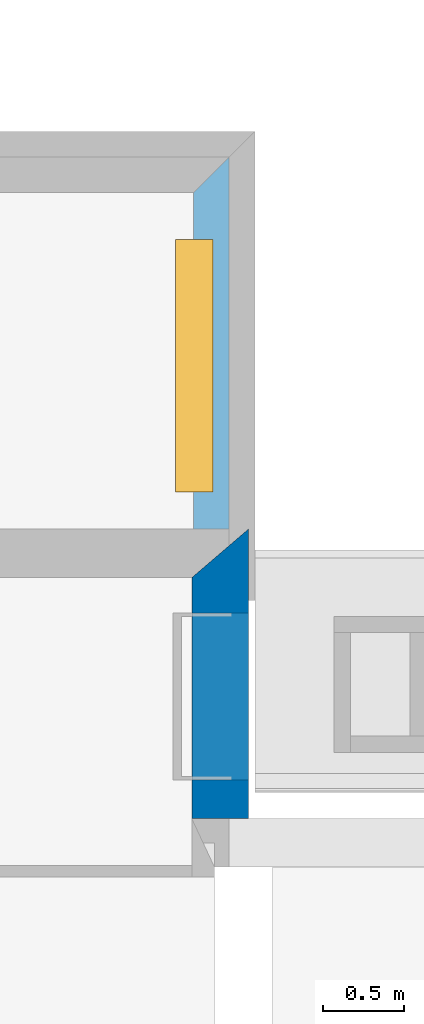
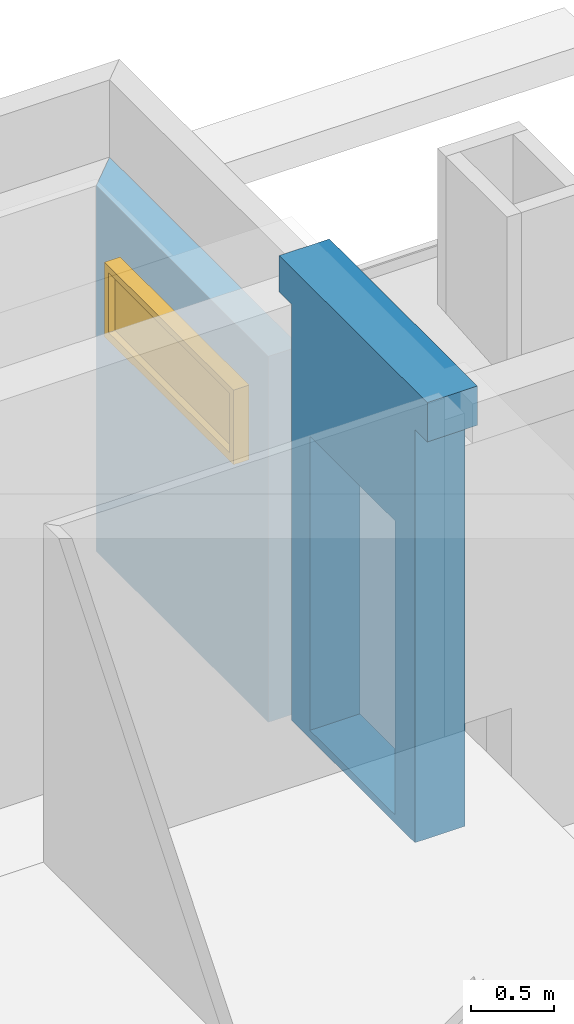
# One storey, part 40 of 64: 2 walls, 1 window, 1 opening, plus 1 element that does not belong to this part.
"""IFC2X3 building model written with IfcOpenShell, lengths in metres."""

import ifcopenshell
import ifcopenshell.guid

model = None  # the IFC model being written
_history = None  # IfcOwnerHistory: only IFC2X3 demands one
_inside = {}  # id of a spatial element -> (the spatial element, [elements in it])
_under = {}  # id of a project, library or spatial element -> (it, [spatial elements below it])
_declared = {}  # id of a project -> (the project, [libraries it declares])
_typed = {}  # id of a type object -> (the type object, [elements of that type])
_made_of = {}  # id of a material, layer set ... -> (it, [elements and type objects made of it])


def new_model(schema):
    """Start an empty IFC model of exactly this schema.

    Asked for "IFC4X3", IfcOpenShell would pick the latest addendum, in which some entities
    have other attributes; the version numbers below select the first issue.
    IFC2X3 requires an IfcOwnerHistory on every rooted entity: one is made here for all.
    """
    global model, _history
    if schema == "IFC4X3":
        model = ifcopenshell.file(schema_version=(4, 3, 0, 0))
    else:
        model = ifcopenshell.file(schema=schema)
    _inside.clear()
    _under.clear()
    _declared.clear()
    _typed.clear()
    _made_of.clear()
    _history = None
    if model.schema == "IFC2X3":
        org = make("IfcOrganization", Name="unknown")
        user = make(
            "IfcPersonAndOrganization",
            ThePerson=make("IfcPerson", FamilyName="unknown"),
            TheOrganization=org,
        )
        app = make(
            "IfcApplication",
            ApplicationDeveloper=org,
            Version="unknown",
            ApplicationFullName="unknown",
            ApplicationIdentifier="unknown",
        )
        _history = make(
            "IfcOwnerHistory",
            OwningUser=user,
            OwningApplication=app,
            ChangeAction="ADDED",
            CreationDate=0,
        )
    return model


def make(cls, **values):
    """One entity of the class cls with the attributes given. An attribute that is None is left unset."""
    return model.create_entity(
        cls, **{name: value for name, value in values.items() if value is not None}
    )


def entity(cls, *values):
    """Any entity or typed value of the class cls, its attributes in the order of the schema. None: left unset."""
    e = model.create_entity(cls)
    for i, value in enumerate(values):
        if value is not None:
            e[i] = value
    return e


def rooted(cls, **values):
    """An entity with a GlobalId (a new one), such as an element, a storey or a relation."""
    return make(cls, GlobalId=ifcopenshell.guid.new(), OwnerHistory=_history, **values)


def si_unit(unit_type, name, prefix=None):
    """IfcSIUnit, for example si_unit("LENGTHUNIT", "METRE", prefix="MILLI")."""
    return make("IfcSIUnit", UnitType=unit_type, Prefix=prefix, Name=name)


def converted_unit(unit_type, name, factor, base, dimensions=None, offset=None):
    """IfcConversionBasedUnit, such as the inch: factor (a typed value) times the base unit."""
    return make(
        "IfcConversionBasedUnit"
        if offset is None
        else "IfcConversionBasedUnitWithOffset",
        ConversionOffset=offset,
        Dimensions=None
        if dimensions is None
        else entity("IfcDimensionalExponents", *dimensions),
        UnitType=unit_type,
        Name=name,
        ConversionFactor=make(
            "IfcMeasureWithUnit", ValueComponent=factor, UnitComponent=base
        ),
    )


def derived_unit(unit_type, elements):
    """IfcDerivedUnit: a product of units, each with its exponent."""
    return make(
        "IfcDerivedUnit",
        Elements=[
            make("IfcDerivedUnitElement", Unit=unit, Exponent=power)
            for unit, power in elements
        ],
        UnitType=unit_type,
    )


def assignment(units):
    """IfcUnitAssignment: the units of a project."""
    return None if units is None else make("IfcUnitAssignment", Units=units)


def point(xyz):
    """IfcCartesianPoint."""
    return None if xyz is None else make("IfcCartesianPoint", Coordinates=xyz)


def direction(xyz):
    """IfcDirection."""
    return None if xyz is None else make("IfcDirection", DirectionRatios=xyz)


def frame(location, z_axis=None, x_axis=None):
    """IfcAxis2Placement3D, a coordinate frame: its origin and axes. An axis left out is left unset."""
    return make(
        "IfcAxis2Placement3D",
        Location=point(location),
        Axis=direction(z_axis),
        RefDirection=direction(x_axis),
    )


def frame_2d(location, x_axis=None):
    """IfcAxis2Placement2D, a coordinate frame in the plane: its origin and x axis."""
    return make(
        "IfcAxis2Placement2D", Location=point(location), RefDirection=direction(x_axis)
    )


def origin():
    """The frame at (0, 0, 0) with its axes left unset."""
    return frame((0.0, 0.0, 0.0))


def place(relative_to, where):
    """IfcLocalPlacement: puts the frame where relative to a parent placement (None: the world)."""
    return make(
        "IfcLocalPlacement", PlacementRelTo=relative_to, RelativePlacement=where
    )


def context(
    kind, dimensions, precision=None, world=None, true_north=None, identifier=None
):
    """IfcGeometricRepresentationContext, for example the 3D "Model" context."""
    return make(
        "IfcGeometricRepresentationContext",
        ContextIdentifier=identifier,
        ContextType=kind,
        CoordinateSpaceDimension=dimensions,
        Precision=precision,
        WorldCoordinateSystem=world,
        TrueNorth=true_north,
    )


def subcontext(parent, identifier, kind, view, scale=None):
    """IfcGeometricRepresentationSubContext, for example "Body" below "Model"."""
    return make(
        "IfcGeometricRepresentationSubContext",
        ContextIdentifier=identifier,
        ContextType=kind,
        ParentContext=parent,
        TargetScale=scale,
        TargetView=view,
    )


def project(units=None, contexts=None):
    """IfcProject with its units and contexts."""
    return rooted(
        "IfcProject",
        Name="project",
        RepresentationContexts=contexts,
        UnitsInContext=assignment(units),
    )


def spatial(cls, under=None, at=None, **own):
    """A site, building, storey or space (cls), placed at a placement, below another one or the project."""
    s = rooted(cls, ObjectPlacement=at, **own)
    if under is not None:
        _under.setdefault(under.id(), (under, []))[1].append(s)
    return s


def polyline(points):
    """IfcPolyline through the points."""
    return make("IfcPolyline", Points=[point(p) for p in points])


def profile(cls, at=None, kind="AREA", **sizes):
    """A parametric profile (cls). Its sizes go by their IFC names, for example OverallWidth=200.0."""
    return make(cls, ProfileType=kind, Position=at, **sizes)


def rectangle(**sizes):
    """IfcRectangleProfileDef."""
    return profile("IfcRectangleProfileDef", **sizes)


def outline(outer, holes=None, kind="AREA"):
    """IfcArbitraryClosedProfileDef: a profile drawn as a closed curve; with holes, ...WithVoids."""
    if holes is None:
        return make("IfcArbitraryClosedProfileDef", ProfileType=kind, OuterCurve=outer)
    return make(
        "IfcArbitraryProfileDefWithVoids",
        ProfileType=kind,
        OuterCurve=outer,
        InnerCurves=holes,
    )


def extrude(swept, where, along, depth):
    """IfcExtrudedAreaSolid: the profile swept, set in the frame where, extruded along a direction by depth."""
    return make(
        "IfcExtrudedAreaSolid",
        SweptArea=swept,
        Position=where,
        ExtrudedDirection=direction(along),
        Depth=depth,
    )


def faces_of(points, faces, orient=None, outer=None):
    """IfcFace entities. A face is a list of loops; a loop is a list of indices into points, from 0.

    orient and outer hold one flag for each loop. By default every Orientation is true, the
    first loop of a face is its IfcFaceOuterBound and the others are IfcFaceBound.
    """
    made = []
    for i, loops in enumerate(faces):
        bounds = []
        for j, loop in enumerate(loops):
            is_outer = j == 0 if outer is None else outer[i][j]
            bounds.append(
                make(
                    "IfcFaceOuterBound" if is_outer else "IfcFaceBound",
                    Bound=make("IfcPolyLoop", Polygon=[points[k] for k in loop]),
                    Orientation=True if orient is None else orient[i][j],
                )
            )
        made.append(make("IfcFace", Bounds=bounds))
    return made


def faceted_brep(points, faces, orient=None, outer=None, voids=None):
    """IfcFacetedBrep: a solid bounded by flat faces; with voids (closed shells), ...WithVoids."""
    shared = [point(p) for p in points]
    hull = make("IfcClosedShell", CfsFaces=faces_of(shared, faces, orient, outer))
    if voids is None:
        return make("IfcFacetedBrep", Outer=hull)
    return make(
        "IfcFacetedBrepWithVoids",
        Outer=hull,
        Voids=[
            make(cls, CfsFaces=faces_of(shared, fs, o, b)) for cls, fs, o, b in voids
        ],
    )


def shape(context_of_items, identifier, shape_type, items):
    """IfcShapeRepresentation: the items that make up one representation, for example the "Body"."""
    return make(
        "IfcShapeRepresentation",
        ContextOfItems=context_of_items,
        RepresentationIdentifier=identifier,
        RepresentationType=shape_type,
        Items=items,
    )


def source(mapping_origin, context_of_items, identifier, shape_type, items):
    """IfcRepresentationMap: a shape defined once, which mapped items show again and again."""
    return make(
        "IfcRepresentationMap",
        MappingOrigin=mapping_origin,
        MappedRepresentation=shape(context_of_items, identifier, shape_type, items),
    )


def transform(
    local_origin,
    x_axis=None,
    y_axis=None,
    z_axis=None,
    scale=None,
    scale2=None,
    scale3=None,
    uniform=True,
):
    """IfcCartesianTransformationOperator3D, or its non-uniform kind. x_axis, y_axis, z_axis: its Axis1, 2, 3."""
    if uniform:
        return make(
            "IfcCartesianTransformationOperator3D",
            Axis1=direction(x_axis),
            Axis2=direction(y_axis),
            LocalOrigin=point(local_origin),
            Scale=scale,
            Axis3=direction(z_axis),
        )
    return make(
        "IfcCartesianTransformationOperator3DnonUniform",
        Axis1=direction(x_axis),
        Axis2=direction(y_axis),
        LocalOrigin=point(local_origin),
        Scale=scale,
        Axis3=direction(z_axis),
        Scale2=scale2,
        Scale3=scale3,
    )


def mapped(mapping_source, mapping_target):
    """IfcMappedItem: shows the shape of a source again, moved by a transform."""
    return make(
        "IfcMappedItem", MappingSource=mapping_source, MappingTarget=mapping_target
    )


def material(Name=None, Category=None):
    """IfcMaterial."""
    return make("IfcMaterial", Name=Name, Category=Category)


def layer(
    of_material, thickness, ventilated=None, Name=None, Category=None, Priority=None
):
    """IfcMaterialLayer: one layer of a wall or slab, of a material (None: an air gap)."""
    return make(
        "IfcMaterialLayer",
        Material=of_material,
        LayerThickness=thickness,
        IsVentilated=ventilated,
        Name=Name,
        Category=Category,
        Priority=Priority,
    )


def layer_set(layers, Name=None):
    """IfcMaterialLayerSet."""
    return make("IfcMaterialLayerSet", MaterialLayers=layers, LayerSetName=Name)


def layer_usage(for_layer_set, set_direction, sense, offset, extent=None):
    """IfcMaterialLayerSetUsage: how a layer set lies in its element."""
    return make(
        "IfcMaterialLayerSetUsage",
        ForLayerSet=for_layer_set,
        LayerSetDirection=set_direction,
        DirectionSense=sense,
        OffsetFromReferenceLine=offset,
        ReferenceExtent=extent,
    )


def made_of(thing, what):
    """Note that an element or type object is made of a material, layer set ...; save() writes the relation."""
    if what is not None:
        _made_of.setdefault(what.id(), (what, []))[1].append(thing)
    return thing


def type_object(cls, material=None, **own):
    """A type object (cls), such as IfcWallType, which elements share."""
    return made_of(rooted(cls, **own), material)


def type_shapes(of_type, sources):
    """Give a type object the sources (RepresentationMaps) that its elements show as mapped items."""
    of_type.RepresentationMaps = sources


def element(
    cls,
    number,
    at=None,
    inside=None,
    cuts=None,
    type_object=None,
    material=None,
    context=None,
    identifier="Body",
    shape_type=None,
    held_by="IfcProductDefinitionShape",
    body=None,
    shapes=None,
    **own,
):
    """One element of the class cls, such as IfcWall. Its Tag is "e" and its number.

    at: its placement. inside: the storey or other place that contains it. cuts: it is an
    opening in that element (IfcRelVoidsElement). A single representation is given by context,
    identifier, shape_type and body (its items); several are given by shapes. held_by: the class
    of the entity that holds the representations. save() writes the other relations.
    """
    e = rooted(cls, Tag="e%d" % number, ObjectPlacement=at, **own)
    if body is not None:
        shapes = [shape(context, identifier, shape_type, body)]
    if shapes is not None:
        e.Representation = make(held_by, Representations=shapes)
    if inside is not None:
        _inside.setdefault(inside.id(), (inside, []))[1].append(e)
    if cuts is not None:
        rooted(
            "IfcRelVoidsElement", RelatingBuildingElement=cuts, RelatedOpeningElement=e
        )
    if type_object is not None:
        _typed.setdefault(type_object.id(), (type_object, []))[1].append(e)
    return made_of(e, material)


def fill(opening, filler):
    """IfcRelFillsElement: the door or window that sits in an opening."""
    return rooted(
        "IfcRelFillsElement",
        RelatingOpeningElement=opening,
        RelatedBuildingElement=filler,
    )


def aggregate(whole, parts):
    """IfcRelAggregates: a whole, such as a stair, and the parts it consists of."""
    return rooted("IfcRelAggregates", RelatingObject=whole, RelatedObjects=parts)


def save(model, path):
    """Write the relations noted so far, then the file.

    IfcRelAggregates (storeys below a building ...), IfcRelContainedInSpatialStructure (elements
    in a storey), IfcRelDefinesByType, IfcRelAssociatesMaterial and IfcRelDeclares: one each for
    every whole, place, type object, material and project.
    """
    for whole, parts in _under.values():
        aggregate(whole, parts)
    for where, things in _inside.values():
        rooted(
            "IfcRelContainedInSpatialStructure",
            RelatedElements=things,
            RelatingStructure=where,
        )
    for kind, things in _typed.values():
        rooted("IfcRelDefinesByType", RelatedObjects=things, RelatingType=kind)
    for what, things in _made_of.values():
        rooted("IfcRelAssociatesMaterial", RelatedObjects=things, RelatingMaterial=what)
    for by, libraries in _declared.values():
        rooted("IfcRelDeclares", RelatingContext=by, RelatedDefinitions=libraries)
    model.write(path)


model = new_model("IFC2X3")

# Units and contexts
model_context = context("Model", 3, precision=1e-05, world=origin(), true_north=direction((6.123031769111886e-17, 1.0)))
body_context = subcontext(model_context, "Body", "Model", "MODEL_VIEW")
ifc_project = project(units=[si_unit("LENGTHUNIT", "METRE"), si_unit("AREAUNIT", "SQUARE_METRE"), si_unit("VOLUMEUNIT", "CUBIC_METRE"), converted_unit("PLANEANGLEUNIT", "DEGREE", entity("IfcRatioMeasure", 0.017453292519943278), si_unit("PLANEANGLEUNIT", "RADIAN"), dimensions=[0, 0, 0, 0, 0, 0, 0]), si_unit("MASSUNIT", "GRAM", prefix="KILO"), derived_unit("MASSDENSITYUNIT", [(si_unit("MASSUNIT", "GRAM", prefix="KILO"), 1), (si_unit("LENGTHUNIT", "METRE"), -3)]), derived_unit("MOMENTOFINERTIAUNIT", [(si_unit("LENGTHUNIT", "METRE"), 4)]), si_unit("TIMEUNIT", "SECOND"), si_unit("FREQUENCYUNIT", "HERTZ"), si_unit("THERMODYNAMICTEMPERATUREUNIT", "DEGREE_CELSIUS"), derived_unit("THERMALTRANSMITTANCEUNIT", [(si_unit("MASSUNIT", "GRAM", prefix="KILO"), 1), (si_unit("THERMODYNAMICTEMPERATUREUNIT", "KELVIN"), -1), (si_unit("TIMEUNIT", "SECOND"), -3)]), derived_unit("THERMALCONDUCTANCEUNIT", [(si_unit("MASSUNIT", "GRAM", prefix="KILO"), 1), (si_unit("LENGTHUNIT", "METRE"), 1), (si_unit("THERMODYNAMICTEMPERATUREUNIT", "KELVIN"), -1), (si_unit("TIMEUNIT", "SECOND"), -3)]), derived_unit("VOLUMETRICFLOWRATEUNIT", [(si_unit("LENGTHUNIT", "METRE"), 3), (si_unit("TIMEUNIT", "SECOND"), -1)]), derived_unit("MASSFLOWRATEUNIT", [(si_unit("MASSUNIT", "GRAM", prefix="KILO"), 1), (si_unit("TIMEUNIT", "SECOND"), -1)]), derived_unit("ROTATIONALFREQUENCYUNIT", [(si_unit("TIMEUNIT", "SECOND"), -1)]), si_unit("ELECTRICCURRENTUNIT", "AMPERE"), si_unit("ELECTRICVOLTAGEUNIT", "VOLT"), si_unit("POWERUNIT", "WATT"), si_unit("FORCEUNIT", "NEWTON", prefix="KILO"), si_unit("ILLUMINANCEUNIT", "LUX"), si_unit("LUMINOUSFLUXUNIT", "LUMEN"), si_unit("LUMINOUSINTENSITYUNIT", "CANDELA"), derived_unit("USERDEFINED", [(si_unit("MASSUNIT", "GRAM", prefix="KILO"), -1), (si_unit("LENGTHUNIT", "METRE"), -2), (si_unit("TIMEUNIT", "SECOND"), 3), (si_unit("LUMINOUSFLUXUNIT", "LUMEN"), 1)]), derived_unit("USERDEFINED", [(si_unit("MASSUNIT", "GRAM", prefix="KILO"), 1), (si_unit("LENGTHUNIT", "METRE"), 3), (si_unit("TIMEUNIT", "SECOND"), -3), (si_unit("ELECTRICCURRENTUNIT", "AMPERE"), -2)]), derived_unit("USERDEFINED", [(si_unit("LENGTHUNIT", "METRE"), 2), (si_unit("TIMEUNIT", "SECOND"), -2)]), derived_unit("SOUNDPOWERUNIT", [(si_unit("MASSUNIT", "GRAM", prefix="KILO"), 1), (si_unit("LENGTHUNIT", "METRE"), 2), (si_unit("TIMEUNIT", "SECOND"), -3)]), derived_unit("SOUNDPRESSUREUNIT", [(si_unit("MASSUNIT", "GRAM", prefix="KILO"), 1), (si_unit("LENGTHUNIT", "METRE"), -1), (si_unit("TIMEUNIT", "SECOND"), -2)]), derived_unit("LINEARVELOCITYUNIT", [(si_unit("LENGTHUNIT", "METRE"), 1), (si_unit("TIMEUNIT", "SECOND"), -1)]), si_unit("PRESSUREUNIT", "PASCAL"), derived_unit("USERDEFINED", [(si_unit("LENGTHUNIT", "METRE"), -2), (si_unit("MASSUNIT", "GRAM", prefix="KILO"), 1), (si_unit("TIMEUNIT", "SECOND"), -2)]), derived_unit("LINEARFORCEUNIT", [(si_unit("MASSUNIT", "GRAM", prefix="KILO"), 1), (si_unit("LENGTHUNIT", "METRE"), 1), (si_unit("TIMEUNIT", "SECOND"), -2), (si_unit("LENGTHUNIT", "METRE"), -1)]), derived_unit("PLANARFORCEUNIT", [(si_unit("MASSUNIT", "GRAM", prefix="KILO"), 1), (si_unit("LENGTHUNIT", "METRE"), 1), (si_unit("TIMEUNIT", "SECOND"), -2), (si_unit("LENGTHUNIT", "METRE"), -2)]), derived_unit("SPECIFICHEATCAPACITYUNIT", [(si_unit("LENGTHUNIT", "METRE"), 2), (si_unit("TIMEUNIT", "SECOND"), -2), (si_unit("THERMODYNAMICTEMPERATUREUNIT", "KELVIN"), -1)]), derived_unit("VAPORPERMEABILITYUNIT", [(si_unit("TIMEUNIT", "SECOND"), 1), (si_unit("LENGTHUNIT", "METRE"), -1)]), derived_unit("DYNAMICVISCOSITYUNIT", [(si_unit("MASSUNIT", "GRAM", prefix="KILO"), 1), (si_unit("LENGTHUNIT", "METRE"), -1), (si_unit("TIMEUNIT", "SECOND"), -1)]), derived_unit("THERMALEXPANSIONCOEFFICIENTUNIT", [(si_unit("THERMODYNAMICTEMPERATUREUNIT", "KELVIN"), -1)])], contexts=[model_context])

# Site, building, storey
site_placement = place(None, origin())
site = spatial("IfcSite", under=ifc_project, at=site_placement, Name="Default", CompositionType="ELEMENT")
building_placement = place(site_placement, origin())
building = spatial("IfcBuilding", under=site, at=building_placement, CompositionType="ELEMENT")
storey_placement = place(building_placement, origin())
storey = spatial("IfcBuildingStorey", under=building, at=storey_placement, Name="REZ-DE-CHAUSSÉE", CompositionType="ELEMENT", Elevation=0.0)

# Walls
ifc_material_1 = material(Name="Bois - Pin granuleux horizontal")
ifc_layer_1 = layer(ifc_material_1, 0.031999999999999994)
ifc_material_2 = material(Name="Air - Vide d'air")
ifc_layer_2 = layer(ifc_material_2, 0.054)
ifc_material_3 = material(Name="Bois - Panneaux de particules")
ifc_layer_3 = layer(ifc_material_3, 0.022)
ifc_material_4 = material(Name="Isolation - Fibre de verre")
ifc_layer_4 = layer(ifc_material_4, 0.12)
ifc_layer_5 = layer(ifc_material_3, 0.022)
ifc_layer_6 = layer(ifc_material_4, 0.08699999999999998)
ifc_material_5 = material(Name="Plâtre - Plaques de plâtre")
ifc_layer_7 = layer(ifc_material_5, 0.013)
ifc_layer_set_1 = layer_set([ifc_layer_1, ifc_layer_2, ifc_layer_3, ifc_layer_4, ifc_layer_5, ifc_layer_6, ifc_layer_7], Name="Mur de base:ABA MOB ITI bardage 350")
wall_type_1 = type_object("IfcWallType", Name="Mur de base:ABA MOB ITI bardage 350", PredefinedType="STANDARD", material=ifc_layer_set_1)
wall_1_placement = place(storey_placement, frame((102.63575227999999, 24.3172094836, -1.0), z_axis=(0.0, 0.0, 1.0), x_axis=(0.0, -1.0, 0.0)))
element("IfcWallStandardCase", 1, at=wall_1_placement, inside=storey, type_object=wall_type_1, Name="MurExt-012", ObjectType="Mur de base:ABA MOB ITI bardage 350", context=body_context, shape_type="Brep", body=[
    faceted_brep([(0.3000000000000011, -0.1750000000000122, 0.0), (1.7900000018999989, -0.1750000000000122, 0.0), (1.7900000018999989, -0.1750000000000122, 3.05), (1.9400000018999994, -0.1750000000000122, 3.05), (1.9400000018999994, -0.1750000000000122, 3.34), (0.15000000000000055, -0.1750000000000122, 3.34), (0.15000000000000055, -0.1750000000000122, 3.0700000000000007), (0.3000000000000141, -0.1750000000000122, 3.07), (0.3000000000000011, -0.1750000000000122, 1.0), (0.3000000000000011, 0.17499999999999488, 0.0), (0.3000000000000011, 0.17499999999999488, 1.0), (0.0, 0.17499999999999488, 1.0), (0.0, 0.17499999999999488, 3.0700000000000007), (0.15000000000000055, 0.17499999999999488, 3.07), (0.15000000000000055, 0.17499999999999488, 3.34), (1.9400000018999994, 0.17499999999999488, 3.34), (1.9400000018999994, 0.17499999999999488, 3.05), (1.7900000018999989, 0.17499999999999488, 3.05), (1.7900000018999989, 0.17499999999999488, 0.0), (1.7900000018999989, 0.05500000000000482, 0.0), (1.9400000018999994, -0.03500000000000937, 3.34), (0.15000000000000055, 0.0, 3.0700000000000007), (1.9400000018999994, -0.10500000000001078, 3.05), (1.9400000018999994, -0.03500000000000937, 3.05)], [[[0, 1, 2, 3, 4, 5, 6, 7, 8]], [[9, 10, 11, 12, 13, 14, 15, 16, 17, 18]], [[1, 0, 9, 18, 19]], [[5, 4, 20, 15, 14]], [[8, 11, 10]], [[6, 5, 14, 13, 21]], [[6, 21, 7]], [[0, 8, 10, 9]], [[7, 21, 12, 11, 8]], [[4, 3, 22, 23, 16, 15, 20]], [[16, 23, 22, 3, 2, 17]], [[2, 1, 19, 18, 17]], [[21, 13, 12]]]),
])
wall_2_placement = place(storey_placement, frame((102.63575227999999, 24.3172094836, -1.0), z_axis=(0.0, 0.0, 1.0), x_axis=(0.0, -1.0, 0.0)))
element("IfcWallStandardCase", 2, at=wall_2_placement, inside=storey, type_object=wall_type_1, Name="MurExt-012", ObjectType="Mur de base:ABA MOB ITI bardage 350", context=body_context, shape_type="Brep", body=[
    faceted_brep([(0.3000000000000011, -0.1750000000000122, 0.0), (1.7900000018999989, -0.1750000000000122, 0.0), (1.7900000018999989, -0.1750000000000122, 3.05), (1.9400000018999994, -0.1750000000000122, 3.05), (1.9400000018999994, -0.1750000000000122, 3.34), (0.15000000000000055, -0.1750000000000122, 3.34), (0.15000000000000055, -0.1750000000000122, 3.0700000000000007), (0.3000000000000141, -0.1750000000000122, 3.07), (0.3000000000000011, -0.1750000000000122, 1.0), (0.5200000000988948, -0.1750000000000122, 2.23), (1.5500000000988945, -0.1750000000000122, 2.23), (1.5500000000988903, -0.1750000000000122, 0.060000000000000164), (0.5200000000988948, -0.1750000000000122, 0.060000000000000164), (1.7900000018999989, 0.17499999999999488, 0.0), (0.3000000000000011, 0.17499999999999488, 0.0), (0.3000000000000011, 0.17499999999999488, 1.0), (0.0, 0.17499999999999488, 1.0), (0.0, 0.17499999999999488, 3.0700000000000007), (0.15000000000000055, 0.17499999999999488, 3.07), (0.15000000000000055, 0.17499999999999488, 3.34), (1.9400000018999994, 0.17499999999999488, 3.34), (1.9400000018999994, 0.17499999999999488, 3.05), (1.7900000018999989, 0.17499999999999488, 3.05), (1.5500000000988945, 0.17499999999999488, 2.23), (0.5200000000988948, 0.17499999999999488, 2.23), (0.5200000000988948, 0.17499999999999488, 0.060000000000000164), (1.5500000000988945, 0.17499999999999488, 0.060000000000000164), (1.7900000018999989, 0.05500000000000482, 0.0), (1.9400000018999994, -0.03500000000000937, 3.34), (0.15000000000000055, 0.0, 3.0700000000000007), (1.9400000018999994, -0.10500000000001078, 3.05), (1.9400000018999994, -0.03500000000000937, 3.05)], [[[0, 1, 2, 3, 4, 5, 6, 7, 8], [9, 10, 11, 12]], [[13, 14, 15, 16, 17, 18, 19, 20, 21, 22], [23, 24, 25, 26]], [[1, 0, 14, 13, 27]], [[5, 4, 28, 20, 19]], [[23, 10, 9, 24]], [[24, 9, 12, 25]], [[25, 12, 11, 26]], [[10, 23, 26, 11]], [[16, 15, 8]], [[5, 19, 18, 29, 6]], [[6, 29, 7]], [[0, 8, 15, 14]], [[16, 8, 7, 29, 17]], [[20, 28, 4, 3, 30, 31, 21]], [[21, 31, 30, 3, 2, 22]], [[2, 1, 27, 13, 22]], [[18, 17, 29]]]),
])

# Wall, opening, window
ifc_material_6 = material(Name="Appareillage - Pierre taillé")
ifc_layer_8 = layer(ifc_material_6, 0.22)
ifc_layer_set_2 = layer_set([ifc_layer_8], Name="Mur de base:Struct. - Pierre 220")
ifc_layer_usage = layer_usage(ifc_layer_set_2, "AXIS2", "NEGATIVE", 0.11)
wall_type_2 = type_object("IfcWallType", Name="Mur de base:Struct. - Pierre 220", PredefinedType="STANDARD", material=ifc_layer_set_2)
wall_3_placement = place(storey_placement, frame((102.58075228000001, 26.6172094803, -1.1999999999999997), z_axis=(0.0, 0.0, 1.0), x_axis=(0.0, -1.0, 0.0)))
wall_3 = element("IfcWallStandardCase", 3, at=wall_3_placement, inside=storey, type_object=wall_type_2, material=ifc_layer_usage, Name="MurExt-012", ObjectType="Mur de base:Struct. - Pierre 220", context=body_context, shape_type="SweptSolid", body=[
    extrude(outline(polyline([(2.2999999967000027, -0.11000000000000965), (2.2999999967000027, 0.10999999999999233), (0.0, 0.10999999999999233), (0.2200000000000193, -0.11000000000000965), (2.2999999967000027, -0.11000000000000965)])), origin(), (0.0, 0.0, 1.0), 2.7),
])
opening_placement = place(wall_3_placement, frame((26.6172094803, -102.58075228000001, 1.1999999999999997), z_axis=(0.0, 0.0, 1.0), x_axis=(0.0, 1.0, 0.0)))
opening = element("IfcOpeningElement", 4, at=opening_placement, cuts=wall_3, Name="MurExt-012", ObjectType="Opening", context=body_context, shape_type="SweptSolid", body=[
    extrude(rectangle(XDim=0.55, YDim=1.5599999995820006, at=frame_2d((-2.7755575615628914e-17, 2.1649348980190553e-15), x_axis=(1.0, 0.0))), frame((102.35855228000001, 25.32720948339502, 0.8750000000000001), z_axis=(1.0, 0.0, 0.0), x_axis=(0.0, 0.0, -1.0)), (0.0, 0.0, 1.0), 0.44440000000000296),
])
ifc_material_7 = material(Name="Peinture - Anthracite")
window_style = type_object("IfcWindowStyle", Name="Fen-003", ConstructionType="NOTDEFINED", OperationType="NOTDEFINED", ParameterTakesPrecedence=False, Sizeable=False, material=ifc_material_7)
shared_shape = source(origin(), body_context, "Body", "Brep", [
    faceted_brep([(1.559999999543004, -0.442200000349, 0.0), (0.0, -0.442200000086, 0.0), (0.0, -0.342200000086, 0.0), (1.559999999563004, -0.342200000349, 0.0), (1.559999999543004, -0.442200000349, 0.5499999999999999), (0.0, -0.442200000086, 0.5499999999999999), (1.509999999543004, -0.44220000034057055, 0.06000000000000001), (0.04999999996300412, -0.44220000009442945, 0.06000000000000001), (0.04999999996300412, -0.44220000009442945, 0.49999999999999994), (1.509999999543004, -0.44220000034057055, 0.49999999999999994), (0.0, -0.342200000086, 0.5499999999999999), (1.559999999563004, -0.342200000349, 0.5499999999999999), (1.509999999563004, -0.3422000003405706, 0.06000000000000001), (1.509999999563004, -0.3422000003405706, 0.49999999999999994), (0.049999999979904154, -0.3422000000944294, 0.49999999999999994), (0.049999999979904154, -0.3422000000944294, 0.06000000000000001), (1.509999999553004, -0.39720000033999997, 0.060099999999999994), (0.049999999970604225, -0.397200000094, 0.060099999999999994), (0.049999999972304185, -0.387200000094, 0.060099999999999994), (1.509999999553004, -0.38720000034, 0.060099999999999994), (1.509999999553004, -0.39720000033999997, 0.49999999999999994), (0.049999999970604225, -0.397200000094, 0.49999999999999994), (0.049999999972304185, -0.387200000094, 0.49999999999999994), (1.509999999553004, -0.38720000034, 0.49999999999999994), (1.559999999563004, -0.342200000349, 0.53), (0.0, -0.342200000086, 0.53), (1.559999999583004, -0.21220000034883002, 0.53), (1.559999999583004, -0.21220000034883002, 0.5499999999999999), (0.0, -0.21220000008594, 0.5499999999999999), (0.0, -0.21220000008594, 0.53), (1.539999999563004, -0.34220000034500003, 0.02), (1.539999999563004, -0.34220000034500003, 0.53), (1.539999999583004, -0.21220000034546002, 0.53), (1.539999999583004, -0.21220000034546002, 0.02), (1.559999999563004, -0.342200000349, 0.02), (1.559999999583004, -0.21220000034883, 0.02), (0.0, -0.342200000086, 0.02), (0.0, -0.21220000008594, 0.02), (0.01999999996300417, -0.34220000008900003, 0.02), (0.01999999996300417, -0.34220000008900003, 0.53), (0.01999999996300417, -0.21220000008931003, 0.53), (0.01999999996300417, -0.21220000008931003, 0.02), (1.559999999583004, -0.21220000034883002, 0.0), (0.0, -0.21220000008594, 0.0)], [[[0, 1, 2, 3]], [[0, 4, 5, 1], [6, 7, 8, 9]], [[1, 5, 10, 2]], [[3, 2, 10, 11], [12, 13, 14, 15]], [[4, 0, 3, 11]], [[5, 4, 11, 10]], [[7, 6, 12, 15]], [[8, 7, 15, 14]], [[9, 8, 14, 13]], [[6, 9, 13, 12]], [[16, 17, 18, 19]], [[16, 20, 21, 17]], [[17, 21, 22, 18]], [[19, 18, 22, 23]], [[20, 16, 19, 23]], [[21, 20, 23, 22]], [[24, 11, 10, 25]], [[26, 27, 11, 24]], [[11, 27, 28, 10]], [[25, 10, 28, 29]], [[24, 25, 29, 26]], [[29, 28, 27, 26]], [[24, 25, 10, 11]], [[26, 29, 28, 27]], [[30, 31, 32, 33]], [[34, 24, 31, 30]], [[31, 24, 26, 32]], [[33, 32, 26, 35]], [[30, 33, 35, 34]], [[35, 26, 24, 34]], [[36, 25, 29, 37]], [[38, 39, 25, 36]], [[25, 39, 40, 29]], [[37, 29, 40, 41]], [[36, 37, 41, 38]], [[41, 40, 39, 38]], [[3, 34, 36, 2]], [[42, 35, 34, 3]], [[34, 35, 37, 36]], [[2, 36, 37, 43]], [[3, 2, 43, 42]], [[43, 37, 35, 42]], [[3, 2, 36, 34]], [[42, 43, 37, 35]]]),
])
type_shapes(window_style, [shared_shape])
window_placement = place(opening_placement, frame((102.80295228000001, 26.10720948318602, 0.6000000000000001), z_axis=(0.0, 0.0, 1.0), x_axis=(0.0, -1.0, 0.0)))
window = element("IfcWindow", 5, at=window_placement, inside=storey, type_object=window_style, material=ifc_material_7, Name="Fen-003 16200:Fen-003 16200", ObjectType="Fen-003 16200:Fen-003 16200", OverallHeight=0.5499999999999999, OverallWidth=1.5599999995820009, context=body_context, shape_type="MappedRepresentation", body=[
    mapped(shared_shape, transform((0.0, 0.0, 0.0), scale=1.0)),
])
fill(opening, window)

save(model, "model.ifc")
